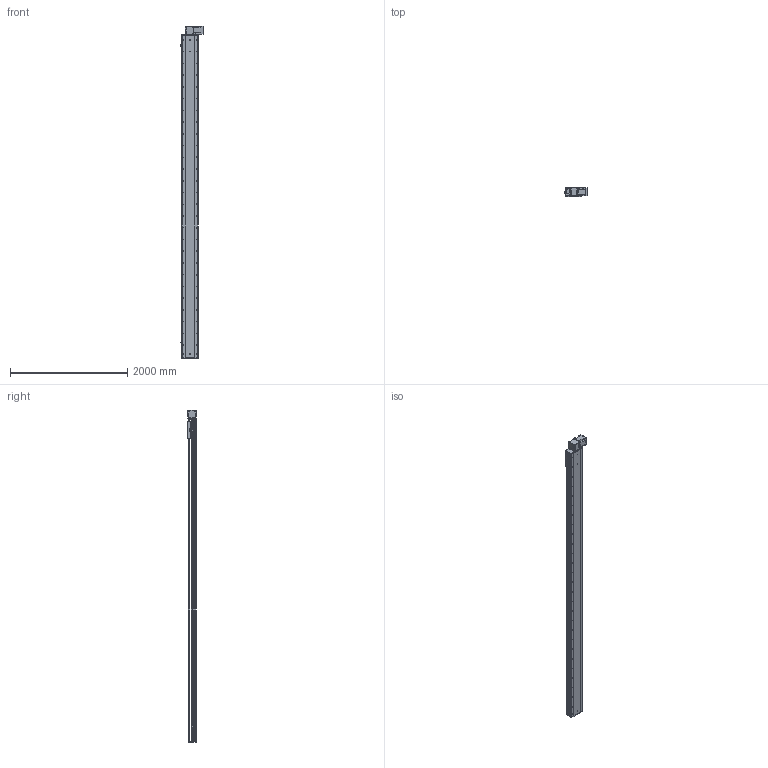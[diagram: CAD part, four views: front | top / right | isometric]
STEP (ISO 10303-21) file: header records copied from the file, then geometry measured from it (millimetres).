
FILE_DESCRIPTION (( 'STEP AP214' ), '1' );
FILE_NAME ('RTB28S-XX-5050-BL-M100-XX-C4.STEP', '2025-12-22T02:52:09', ( '' ), ( '' ), 'SwSTEP 2.0', 'SolidWorks 2018', '' );
FILE_SCHEMA (( 'AUTOMOTIVE_DESIGN' ));
Length unit declared in the file: millimetre
Products named in the file (4): RTB28S-GY-008^RTB28S-XX-XX-BL-M100-XX-C4; RTB28S-GY-004^RTB28S-XX-XX-BL-M100-XX-C4; RTB28S-GY-011^RTB28S-XX-XX-BL-M100-XX-C4; RTB28S-XX-5050-BL-M100-XX-C4
Assembly tree (3 placements, depth 2):
  RTB28S-XX-5050-BL-M100-XX-C4
    RTB28S-GY-011^RTB28S-XX-XX-BL-M100-XX-C4
    RTB28S-GY-004^RTB28S-XX-XX-BL-M100-XX-C4
    RTB28S-GY-008^RTB28S-XX-XX-BL-M100-XX-C4
Bounding box: 380.7 x 145 x 5657 mm (x, y, z)
Volume: 93396202 mm3; surface area: 8616346.5 mm2
Topology: 3 solids, 4 shells, 988 faces, 2688 edges, 1728 vertices
Faces by surface type: cylinder 519, plane 385, cone 80, torus 4
Entity records: 39233 total; most frequent: CARTESIAN_POINT 8002, DIRECTION 5742, ORIENTED_EDGE 5312, EDGE_CURVE 2656, AXIS2_PLACEMENT_3D 2156, VERTEX_POINT 1728, VECTOR 1430, LINE 1430
